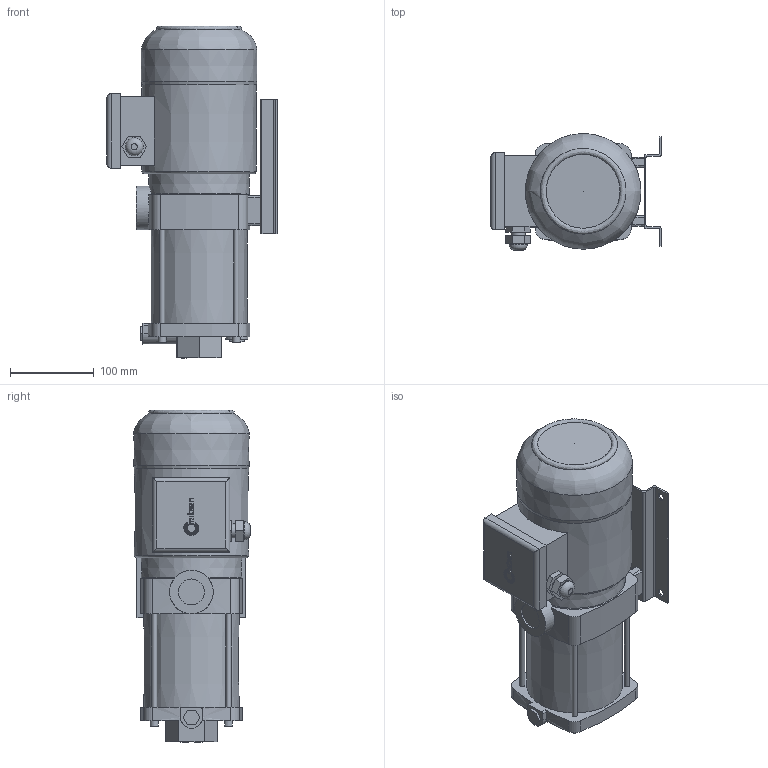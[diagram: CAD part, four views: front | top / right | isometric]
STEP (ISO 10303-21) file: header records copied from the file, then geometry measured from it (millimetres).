
FILE_DESCRIPTION(/* description */ ('Unknown'),/* implementation_level */ '2;1');
FILE_NAME(/* name */ 'hd04',/* time_stamp */ '2025-06-17T14:56:09+03:00',/* author */ ('Unknown'),/* organization */ ('Unknown'),/* preprocessor_version */ 'ST-DEVELOPER v16.7',/* originating_system */ 'DEX',/* authorisation */ $);
FILE_SCHEMA (('AUTOMOTIVE_DESIGN {1 0 10303 214 3 1 1}'));
Length unit declared in the file: millimetre
Products named in the file (1): hd04
Bounding box: 203 x 139.29 x 396.08 mm (x, y, z)
Volume: 5261143.1 mm3; surface area: 280232 mm2
Topology: 1 solids, 1 shells, 254 faces, 664 edges, 441 vertices
Faces by surface type: plane 105, bspline 71, cylinder 63, cone 12, torus 3
Full cylindrical faces by diameter (mm): 6 x4, 9 x4, 9.5 x4, 17 x1, 21.5 x1, 26 x1, 31 x1, 39.268 x1, 52 x1
Entity records: 11133 total; most frequent: CARTESIAN_POINT 5390, ORIENTED_EDGE 1246, DIRECTION 975, EDGE_CURVE 623, VERTEX_POINT 430, AXIS2_PLACEMENT_3D 333, FACE_BOUND 331, EDGE_LOOP 330
